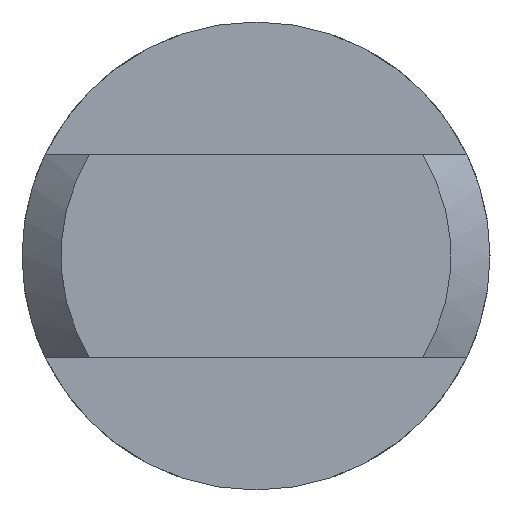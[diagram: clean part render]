
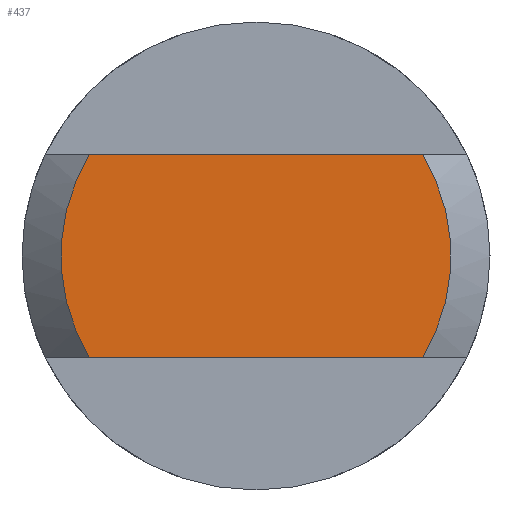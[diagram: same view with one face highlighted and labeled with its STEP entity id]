
A CAD part, left-side view. The second image highlights one B-rep face of the part: STEP entity #437.
In plain terms, the highlighted planar face has unit normal (-1, 0, 0).
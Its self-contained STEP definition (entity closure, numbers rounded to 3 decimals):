
#27 = VECTOR ( 'NONE', #809, 1000. ) ;
#35 = CARTESIAN_POINT ( 'NONE',  ( -18., -2.135, 1.3 ) ) ;
#104 = VERTEX_POINT ( 'NONE', #442 ) ;
#105 = CARTESIAN_POINT ( 'NONE',  ( -18., 2.135, 1.3 ) ) ;
#158 = CARTESIAN_POINT ( 'NONE',  ( -18., 0., 1.3 ) ) ;
#168 = DIRECTION ( 'NONE',  ( 0., 0., -1. ) ) ;
#173 = DIRECTION ( 'NONE',  ( 1., 0., 0. ) ) ;
#187 = ORIENTED_EDGE ( 'NONE', *, *, #472, .T. ) ;
#201 = LINE ( 'NONE', #280, #27 ) ;
#253 = AXIS2_PLACEMENT_3D ( 'NONE', #1034, #173, #883 ) ;
#280 = CARTESIAN_POINT ( 'NONE',  ( -18., 0., -1.3 ) ) ;
#360 = DIRECTION ( 'NONE',  ( 0., -1., 0. ) ) ;
#414 = EDGE_CURVE ( 'NONE', #1038, #1111, #696, .T. ) ;
#430 = AXIS2_PLACEMENT_3D ( 'NONE', #683, #781, #505 ) ;
#437 = ADVANCED_FACE ( 'NONE', ( #950 ), #766, .F. ) ;
#442 = CARTESIAN_POINT ( 'NONE',  ( -18., 2.135, -1.3 ) ) ;
#450 = CIRCLE ( 'NONE', #597, 2.5 ) ;
#472 = EDGE_CURVE ( 'NONE', #762, #1111, #519, .T. ) ;
#505 = DIRECTION ( 'NONE',  ( 0., 0., -1. ) ) ;
#519 = CIRCLE ( 'NONE', #430, 2.5 ) ;
#597 = AXIS2_PLACEMENT_3D ( 'NONE', #949, #1120, #168 ) ;
#683 = CARTESIAN_POINT ( 'NONE',  ( -18., 0., 0. ) ) ;
#696 = LINE ( 'NONE', #158, #852 ) ;
#703 = ORIENTED_EDGE ( 'NONE', *, *, #831, .T. ) ;
#734 = EDGE_LOOP ( 'NONE', ( #929, #703, #1115, #187 ) ) ;
#741 = CARTESIAN_POINT ( 'NONE',  ( -18., -2.135, -1.3 ) ) ;
#762 = VERTEX_POINT ( 'NONE', #741 ) ;
#766 = PLANE ( 'NONE',  #253 ) ;
#781 = DIRECTION ( 'NONE',  ( -1., 0., 0. ) ) ;
#809 = DIRECTION ( 'NONE',  ( 0., 1., 0. ) ) ;
#831 = EDGE_CURVE ( 'NONE', #1038, #104, #450, .T. ) ;
#852 = VECTOR ( 'NONE', #360, 1000. ) ;
#883 = DIRECTION ( 'NONE',  ( 0., 0., -1. ) ) ;
#929 = ORIENTED_EDGE ( 'NONE', *, *, #414, .F. ) ;
#949 = CARTESIAN_POINT ( 'NONE',  ( -18., 0., 0. ) ) ;
#950 = FACE_OUTER_BOUND ( 'NONE', #734, .T. ) ;
#1013 = EDGE_CURVE ( 'NONE', #762, #104, #201, .T. ) ;
#1034 = CARTESIAN_POINT ( 'NONE',  ( -18., 0., 0. ) ) ;
#1038 = VERTEX_POINT ( 'NONE', #105 ) ;
#1111 = VERTEX_POINT ( 'NONE', #35 ) ;
#1115 = ORIENTED_EDGE ( 'NONE', *, *, #1013, .F. ) ;
#1120 = DIRECTION ( 'NONE',  ( -1., 0., 0. ) ) ;
